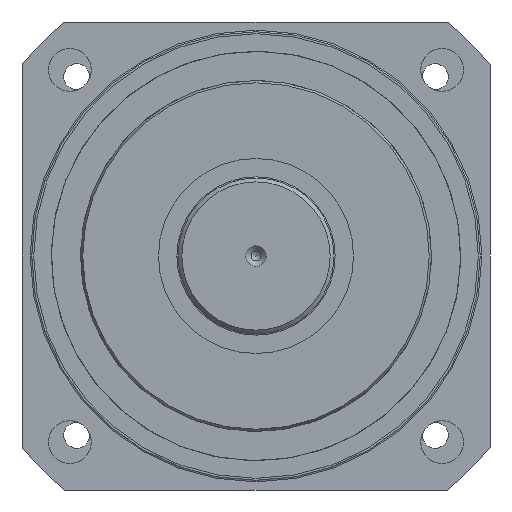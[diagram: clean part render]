
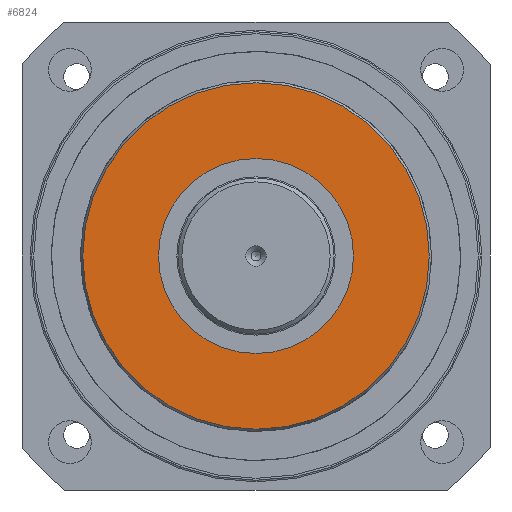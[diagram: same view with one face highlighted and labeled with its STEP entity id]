
A CAD part, left-side view. The second image highlights one B-rep face of the part: STEP entity #6824.
In plain terms, the highlighted planar face has unit normal (-1, 0, 0).
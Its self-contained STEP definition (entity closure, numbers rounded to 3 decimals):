
#645=FACE_BOUND('',#1861,.T.);
#1289=PLANE('',#7716);
#1448=FACE_OUTER_BOUND('',#1860,.T.);
#1860=EDGE_LOOP('',(#5081));
#1861=EDGE_LOOP('',(#5082,#5083));
#2408=CIRCLE('',#7712,44.423);
#2411=CIRCLE('',#7717,25.);
#2412=CIRCLE('',#7718,25.);
#3109=VERTEX_POINT('',#11489);
#3112=VERTEX_POINT('',#11499);
#3113=VERTEX_POINT('',#11500);
#3946=EDGE_CURVE('',#3109,#3109,#2408,.T.);
#3950=EDGE_CURVE('',#3112,#3113,#2411,.T.);
#3951=EDGE_CURVE('',#3113,#3112,#2412,.T.);
#5081=ORIENTED_EDGE('',*,*,#3946,.F.);
#5082=ORIENTED_EDGE('',*,*,#3950,.T.);
#5083=ORIENTED_EDGE('',*,*,#3951,.T.);
#6824=ADVANCED_FACE('',(#1448,#645),#1289,.T.);
#7712=AXIS2_PLACEMENT_3D('',#11491,#9036,#9037);
#7716=AXIS2_PLACEMENT_3D('',#11498,#9045,#9046);
#7717=AXIS2_PLACEMENT_3D('',#11501,#9047,#9048);
#7718=AXIS2_PLACEMENT_3D('',#11502,#9049,#9050);
#9036=DIRECTION('center_axis',(1.,0.,0.));
#9037=DIRECTION('ref_axis',(0.,-1.,0.));
#9045=DIRECTION('center_axis',(-1.,0.,0.));
#9046=DIRECTION('ref_axis',(0.,0.,1.));
#9047=DIRECTION('center_axis',(1.,0.,0.));
#9048=DIRECTION('ref_axis',(0.,0.,-1.));
#9049=DIRECTION('center_axis',(1.,0.,0.));
#9050=DIRECTION('ref_axis',(0.,0.,-1.));
#11489=CARTESIAN_POINT('',(0.,44.423,0.));
#11491=CARTESIAN_POINT('Origin',(0.,0.,0.));
#11498=CARTESIAN_POINT('Origin',(0.,45.,0.));
#11499=CARTESIAN_POINT('',(0.,25.,0.));
#11500=CARTESIAN_POINT('',(0.,-25.,0.));
#11501=CARTESIAN_POINT('Origin',(0.,0.,0.));
#11502=CARTESIAN_POINT('Origin',(0.,0.,0.));
